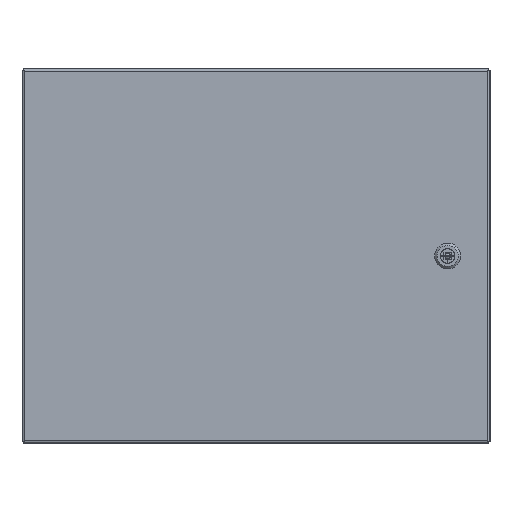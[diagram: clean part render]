
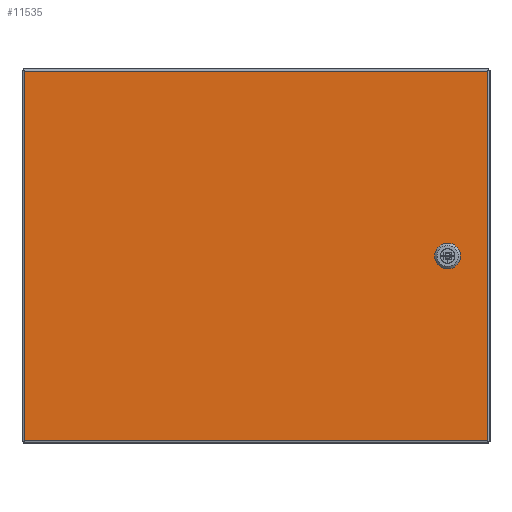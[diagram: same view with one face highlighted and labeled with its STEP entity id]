
A CAD part, front view. The second image highlights one B-rep face of the part: STEP entity #11535.
In plain terms, the highlighted planar face has unit normal (0, -1, 0).
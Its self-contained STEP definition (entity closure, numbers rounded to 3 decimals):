
#1134=LINE('',#17837,#2107);
#1135=LINE('',#17840,#2108);
#1136=LINE('',#17842,#2109);
#1137=LINE('',#17844,#2110);
#1138=LINE('',#17846,#2111);
#1139=LINE('',#17848,#2112);
#1140=LINE('',#17850,#2113);
#1141=LINE('',#17852,#2114);
#1142=LINE('',#17853,#2115);
#1143=LINE('',#17854,#2116);
#1144=LINE('',#17855,#2117);
#1145=LINE('',#17856,#2118);
#2107=VECTOR('',#14279,1000.);
#2108=VECTOR('',#14280,1000.);
#2109=VECTOR('',#14281,1000.);
#2110=VECTOR('',#14282,1000.);
#2111=VECTOR('',#14283,1000.);
#2112=VECTOR('',#14284,1000.);
#2113=VECTOR('',#14285,1000.);
#2114=VECTOR('',#14286,1000.);
#2115=VECTOR('',#14287,1000.);
#2116=VECTOR('',#14288,1000.);
#2117=VECTOR('',#14289,1000.);
#2118=VECTOR('',#14290,1000.);
#4284=ORIENTED_EDGE('',*,*,#6949,.F.);
#4285=ORIENTED_EDGE('',*,*,#6950,.F.);
#4286=ORIENTED_EDGE('',*,*,#6951,.F.);
#4287=ORIENTED_EDGE('',*,*,#6952,.F.);
#4288=ORIENTED_EDGE('',*,*,#6953,.F.);
#4289=ORIENTED_EDGE('',*,*,#6954,.F.);
#4290=ORIENTED_EDGE('',*,*,#6955,.F.);
#4291=ORIENTED_EDGE('',*,*,#6956,.F.);
#4292=ORIENTED_EDGE('',*,*,#6957,.T.);
#4293=ORIENTED_EDGE('',*,*,#6958,.T.);
#4294=ORIENTED_EDGE('',*,*,#6959,.T.);
#4295=ORIENTED_EDGE('',*,*,#6960,.T.);
#6949=EDGE_CURVE('',#8346,#8347,#1134,.T.);
#6950=EDGE_CURVE('',#8348,#8346,#1135,.T.);
#6951=EDGE_CURVE('',#8349,#8348,#1136,.T.);
#6952=EDGE_CURVE('',#8350,#8349,#1137,.T.);
#6953=EDGE_CURVE('',#8351,#8350,#1138,.T.);
#6954=EDGE_CURVE('',#8352,#8351,#1139,.T.);
#6955=EDGE_CURVE('',#8353,#8352,#1140,.T.);
#6956=EDGE_CURVE('',#8347,#8353,#1141,.T.);
#6957=EDGE_CURVE('',#8317,#8302,#1142,.T.);
#6958=EDGE_CURVE('',#8302,#8293,#1143,.T.);
#6959=EDGE_CURVE('',#8293,#8326,#1144,.T.);
#6960=EDGE_CURVE('',#8326,#8317,#1145,.T.);
#8293=VERTEX_POINT('',#17706);
#8302=VERTEX_POINT('',#17730);
#8317=VERTEX_POINT('',#17764);
#8326=VERTEX_POINT('',#17788);
#8346=VERTEX_POINT('',#17838);
#8347=VERTEX_POINT('',#17839);
#8348=VERTEX_POINT('',#17841);
#8349=VERTEX_POINT('',#17843);
#8350=VERTEX_POINT('',#17845);
#8351=VERTEX_POINT('',#17847);
#8352=VERTEX_POINT('',#17849);
#8353=VERTEX_POINT('',#17851);
#9592=EDGE_LOOP('',(#4284,#4285,#4286,#4287,#4288,#4289,#4290,#4291));
#9593=EDGE_LOOP('',(#4292,#4293,#4294,#4295));
#10410=FACE_BOUND('',#9592,.T.);
#10411=FACE_BOUND('',#9593,.T.);
#11023=PLANE('',#12509);
#11535=ADVANCED_FACE('',(#10410,#10411),#11023,.T.);
#12509=AXIS2_PLACEMENT_3D('',#17836,#14277,#14278);
#14277=DIRECTION('',(0.,-1.,0.));
#14278=DIRECTION('',(0.,0.,-1.));
#14279=DIRECTION('',(-1.,0.,0.));
#14280=DIRECTION('',(-0.707,0.,0.707));
#14281=DIRECTION('',(0.,0.,1.));
#14282=DIRECTION('',(0.707,0.,0.707));
#14283=DIRECTION('',(1.,0.,0.));
#14284=DIRECTION('',(0.707,0.,-0.707));
#14285=DIRECTION('',(0.,0.,-1.));
#14286=DIRECTION('',(-0.707,0.,-0.707));
#14287=DIRECTION('',(0.,0.,-1.));
#14288=DIRECTION('',(1.,0.,0.));
#14289=DIRECTION('',(0.,0.,1.));
#14290=DIRECTION('',(-1.,0.,0.));
#17706=CARTESIAN_POINT('',(251.422,0.,-200.622));
#17730=CARTESIAN_POINT('',(-251.422,0.,-200.622));
#17764=CARTESIAN_POINT('',(-251.422,0.,200.622));
#17788=CARTESIAN_POINT('',(251.422,0.,200.622));
#17836=CARTESIAN_POINT('',(-251.422,0.,-200.622));
#17837=CARTESIAN_POINT('',(213.855,0.,10.046));
#17838=CARTESIAN_POINT('',(213.855,0.,10.046));
#17839=CARTESIAN_POINT('',(202.121,0.,10.046));
#17840=CARTESIAN_POINT('',(213.855,0.,10.046));
#17841=CARTESIAN_POINT('',(218.034,0.,5.867));
#17842=CARTESIAN_POINT('',(218.034,0.,-5.867));
#17843=CARTESIAN_POINT('',(218.034,0.,-5.867));
#17844=CARTESIAN_POINT('',(218.034,0.,-5.867));
#17845=CARTESIAN_POINT('',(213.855,0.,-10.046));
#17846=CARTESIAN_POINT('',(202.121,0.,-10.046));
#17847=CARTESIAN_POINT('',(202.121,0.,-10.046));
#17848=CARTESIAN_POINT('',(197.942,0.,-5.867));
#17849=CARTESIAN_POINT('',(197.942,0.,-5.867));
#17850=CARTESIAN_POINT('',(197.942,0.,5.867));
#17851=CARTESIAN_POINT('',(197.942,0.,5.867));
#17852=CARTESIAN_POINT('',(202.121,0.,10.046));
#17853=CARTESIAN_POINT('',(-251.422,0.,200.622));
#17854=CARTESIAN_POINT('',(-251.422,0.,-200.622));
#17855=CARTESIAN_POINT('',(251.422,0.,-200.622));
#17856=CARTESIAN_POINT('',(251.422,0.,200.622));
